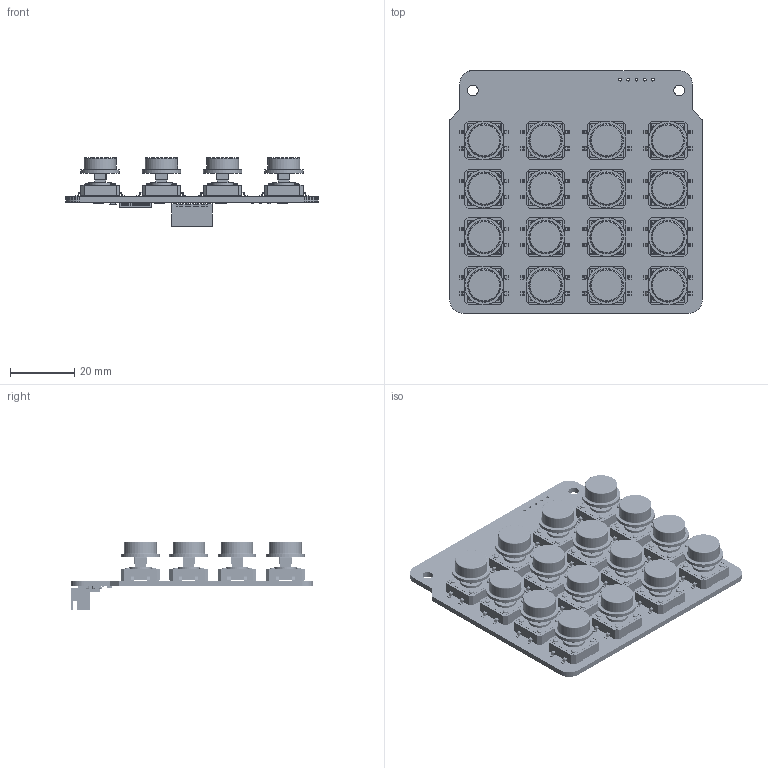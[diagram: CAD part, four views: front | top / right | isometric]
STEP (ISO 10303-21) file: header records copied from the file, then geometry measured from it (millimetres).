
FILE_DESCRIPTION(('Open CASCADE Model'),'2;1');
FILE_NAME('Open CASCADE Shape Model','2025-04-23T12:59:45',('Author'),( 'Open CASCADE'),'Open CASCADE STEP processor 6.5','Open CASCADE 6.5' ,'Unknown');
FILE_SCHEMA(('AUTOMOTIVE_DESIGN { 1 0 10303 214 1 1 1 1 }'));
Length unit declared in the file: millimetre
Products named in the file (44): PCB; Board; S16; 偌瑩簽-WHITE; 12x12x7.3; S15; S14; S13; S12; S11; S10; S9; S8; S7; S6; S5; S4; S3; S2; S1; R7; User_Library-Array-1206-4Way-Var2-1; User_Library-Array-1206-4Way-Var2-1_Anschl_X_FCsse_1; User_Library-Array-1206-4Way-Var2-1_K_X_F6rper_1; User_Library-Array-1206-4Way-Var2-1_Deckel_1; User_Library-Array-1206-4Way-Var2-1_Beschriftung_1; U1; User_Library-SSOP28_LTC1923; Part_SSOP28_LTC1923_\X2\041f043e\X0\_\X2\
0443043c043e043b04470430043d0438044e\X0\; Assy_Fuss_SSOP28_\X2\041f043e\X0\_\X2\
0443043c043e043b04470430043d0438044e\X0\; Fuss_SSOP28_\X2\041f043e\X0\_\X2\
0443043c043e043b04470430043d0438044e\X0\; R6; R5; R3; 0603_R; R2; R1; C3; User_Library-0603(1608M)_Cap; C1 ...
Assembly tree (136 placements, depth 5):
  PCB
    Board
    S16
      偌瑩簽-WHITE
      12x12x7.3
    S15
      偌瑩簽-WHITE
      12x12x7.3
    S14
      偌瑩簽-WHITE
      12x12x7.3
    S13
      偌瑩簽-WHITE
      12x12x7.3
    S12
      偌瑩簽-WHITE
      12x12x7.3
    S11
      偌瑩簽-WHITE
      12x12x7.3
    S10
      偌瑩簽-WHITE
      12x12x7.3
    S9
      偌瑩簽-WHITE
      12x12x7.3
    S8
      偌瑩簽-WHITE
      12x12x7.3
    S7
      偌瑩簽-WHITE
      12x12x7.3
    S6
      偌瑩簽-WHITE
      12x12x7.3
    S5
      偌瑩簽-WHITE
      12x12x7.3
    S4
      偌瑩簽-WHITE
      12x12x7.3
    S3
      偌瑩簽-WHITE
      12x12x7.3
    S2
      偌瑩簽-WHITE
      12x12x7.3
    S1
      偌瑩簽-WHITE
      12x12x7.3
    R7
      User_Library-Array-1206-4Way-Var2-1
        User_Library-Array-1206-4Way-Var2-1_Anschl_X_FCsse_1
        User_Library-Array-1206-4Way-Var2-1_K_X_F6rper_1
        User_Library-Array-1206-4Way-Var2-1_Deckel_1
        User_Library-Array-1206-4Way-Var2-1_Beschriftung_1
    U1
      User_Library-SSOP28_LTC1923
        Part_SSOP28_LTC1923_\X2\041f043e\X0\_\X2\
0443043c043e043b04470430043d0438044e\X0\
        Assy_Fuss_SSOP28_\X2\041f043e\X0\_\X2\
0443043c043e043b04470430043d0438044e\X0\  x2
Bounding box: 78.27 x 75.27 x 21.29 mm (x, y, z)
Volume: 25377.6 mm3; surface area: 28509.3 mm2
Topology: 177 solids, 177 shells, 14334 faces, 39293 edges, 26084 vertices
Faces by surface type: plane 12058, cylinder 1301, bspline 832, torus 112, cone 16, extrusion 15
Full cylindrical faces by diameter (mm): 0.9 x5, 1.5 x64, 1.505 x32, 1.6 x16, 3.3 x2, 10 x16, 12 x16
Entity records: 108838 total; most frequent: CARTESIAN_POINT 26937, DIRECTION 11945, VECTOR 8868, LINE 8863, ORIENTED_EDGE 7554, PCURVE 7554, DEFINITIONAL_REPRESENTATION 7554, EDGE_CURVE 3777
